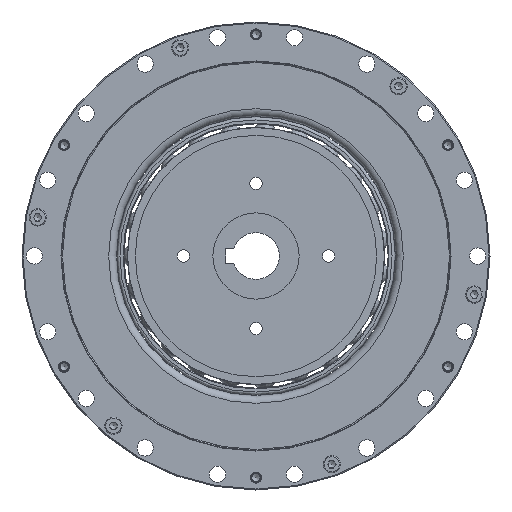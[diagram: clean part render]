
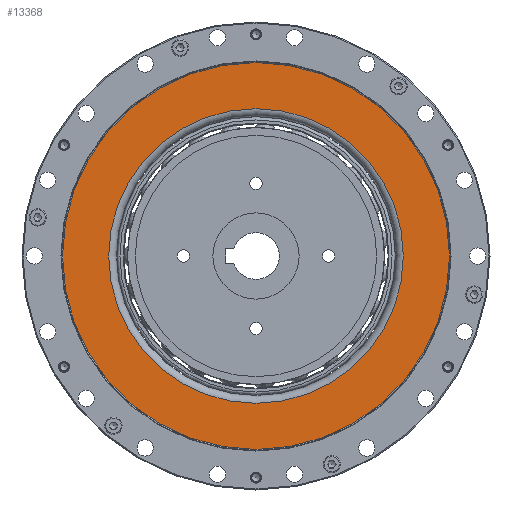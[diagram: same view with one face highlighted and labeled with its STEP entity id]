
A CAD part, left-side view. The second image highlights one B-rep face of the part: STEP entity #13368.
In plain terms, the highlighted planar face has unit normal (-1, 0, 0).
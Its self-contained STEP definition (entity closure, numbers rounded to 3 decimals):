
#347 = VERTEX_POINT ( 'NONE', #16564 ) ;
#1694 = EDGE_CURVE ( 'NONE', #347, #347, #19141, .T. ) ;
#5142 = DIRECTION ( 'NONE',  ( -1., 0., 0. ) ) ;
#5147 = DIRECTION ( 'NONE',  ( 0., -0.342, -0.94 ) ) ;
#7002 = CARTESIAN_POINT ( 'NONE',  ( 6.32, 0., 0. ) ) ;
#7010 = CARTESIAN_POINT ( 'NONE',  ( 6.32, 73.816, -26.858 ) ) ;
#7021 = EDGE_LOOP ( 'NONE', ( #15269 ) ) ;
#7277 = AXIS2_PLACEMENT_3D ( 'NONE', #7010, #22168, #5147 ) ;
#7697 = CARTESIAN_POINT ( 'NONE',  ( 6.32, 0., 0. ) ) ;
#8295 = EDGE_CURVE ( 'NONE', #8870, #8870, #22273, .T. ) ;
#8870 = VERTEX_POINT ( 'NONE', #16205 ) ;
#8874 = FACE_BOUND ( 'NONE', #17575, .T. ) ;
#10855 = DIRECTION ( 'NONE',  ( 0., 0.342, 0.94 ) ) ;
#13368 = ADVANCED_FACE ( 'NONE', ( #8874, #16461 ), #24031, .F. ) ;
#14084 = ORIENTED_EDGE ( 'NONE', *, *, #8295, .F. ) ;
#14360 = AXIS2_PLACEMENT_3D ( 'NONE', #7697, #15279, #22868 ) ;
#14727 = AXIS2_PLACEMENT_3D ( 'NONE', #7002, #5142, #10855 ) ;
#15269 = ORIENTED_EDGE ( 'NONE', *, *, #1694, .T. ) ;
#15279 = DIRECTION ( 'NONE',  ( -1., 0., 0. ) ) ;
#16205 = CARTESIAN_POINT ( 'NONE',  ( 6.32, 20.446, 56.195 ) ) ;
#16461 = FACE_OUTER_BOUND ( 'NONE', #7021, .T. ) ;
#16564 = CARTESIAN_POINT ( 'NONE',  ( 6.32, 26.858, 73.816 ) ) ;
#17575 = EDGE_LOOP ( 'NONE', ( #14084 ) ) ;
#19141 = CIRCLE ( 'NONE', #14360, 78.55 ) ;
#22168 = DIRECTION ( 'NONE',  ( 1., 0., 0. ) ) ;
#22273 = CIRCLE ( 'NONE', #14727, 59.799 ) ;
#22868 = DIRECTION ( 'NONE',  ( 0., 0.342, 0.94 ) ) ;
#24031 = PLANE ( 'NONE',  #7277 ) ;
